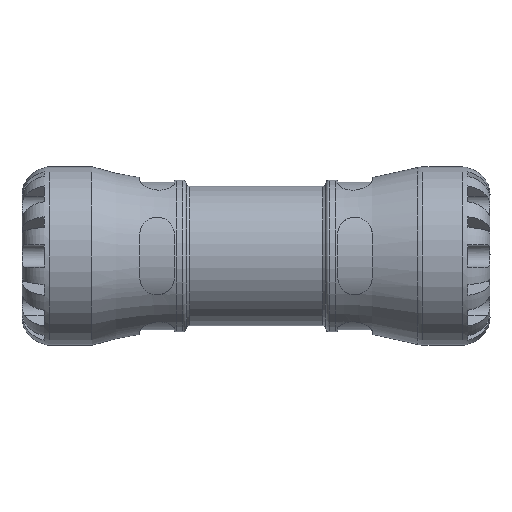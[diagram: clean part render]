
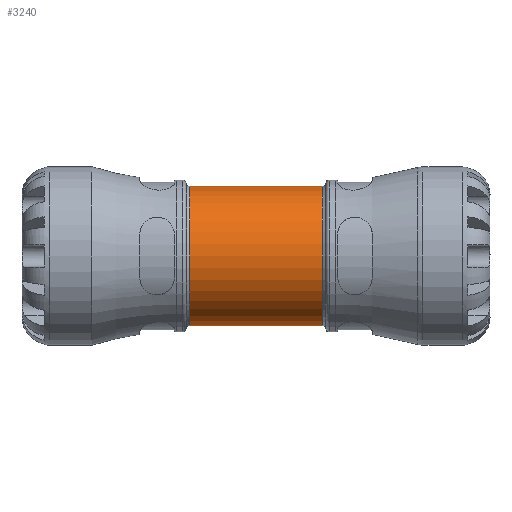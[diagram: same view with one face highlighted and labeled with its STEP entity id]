
A CAD part, front view. The second image highlights one B-rep face of the part: STEP entity #3240.
In plain terms, the highlighted cylindrical face has radius 22.62 mm (diameter 45.24 mm), a full revolution.
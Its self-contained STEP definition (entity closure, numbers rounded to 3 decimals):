
#467=FACE_BOUND('',#784,.T.);
#468=FACE_BOUND('',#785,.T.);
#510=CYLINDRICAL_SURFACE('',#3445,22.62);
#580=FACE_OUTER_BOUND('',#783,.T.);
#783=EDGE_LOOP('',(#2108));
#784=EDGE_LOOP('',(#2109));
#785=EDGE_LOOP('',(#2110));
#1026=B_SPLINE_CURVE_WITH_KNOTS('',3,(#4844,#4845,#4846,#4847,#4848,#4849,
#4850,#4851,#4852,#4853,#4854,#4855,#4856,#4857,#4858,#4859,#4860,#4861),
 .UNSPECIFIED.,.T.,.F.,(4,1,1,1,1,1,1,1,1,1,1,1,1,1,1,4),(-7.44,
-6.909,-6.377,-5.846,-5.314,
-4.783,-4.252,-3.897,-3.543,-3.189,
-2.48,-2.126,-1.594,-1.063,
-0.531,0.),.UNSPECIFIED.);
#1158=CIRCLE('',#3446,22.62);
#1159=CIRCLE('',#3447,22.62);
#1331=VERTEX_POINT('',#4823);
#1334=VERTEX_POINT('',#4866);
#1335=VERTEX_POINT('',#4868);
#1638=EDGE_CURVE('',#1331,#1331,#1026,.T.);
#1640=EDGE_CURVE('',#1334,#1334,#1158,.T.);
#1641=EDGE_CURVE('',#1335,#1335,#1159,.T.);
#2108=ORIENTED_EDGE('',*,*,#1640,.F.);
#2109=ORIENTED_EDGE('',*,*,#1641,.F.);
#2110=ORIENTED_EDGE('',*,*,#1638,.F.);
#3240=ADVANCED_FACE('',(#580,#467,#468),#510,.T.);
#3445=AXIS2_PLACEMENT_3D('',#4865,#3826,#3827);
#3446=AXIS2_PLACEMENT_3D('',#4867,#3828,#3829);
#3447=AXIS2_PLACEMENT_3D('',#4869,#3830,#3831);
#3826=DIRECTION('center_axis',(1.,0.,0.));
#3827=DIRECTION('ref_axis',(0.,1.,0.));
#3828=DIRECTION('center_axis',(1.,0.,0.));
#3829=DIRECTION('ref_axis',(0.,1.,0.));
#3830=DIRECTION('center_axis',(-1.,0.,0.));
#3831=DIRECTION('ref_axis',(0.,1.,0.));
#4823=CARTESIAN_POINT('',(0.,18.458,-13.076));
#4844=CARTESIAN_POINT('Ctrl Pts',(0.,18.456,
-13.075));
#4845=CARTESIAN_POINT('Ctrl Pts',(-2.207,18.456,-13.075));
#4846=CARTESIAN_POINT('Ctrl Pts',(-6.62,19.18,-12.113));
#4847=CARTESIAN_POINT('Ctrl Pts',(-11.601,21.164,-8.479));
#4848=CARTESIAN_POINT('Ctrl Pts',(-14.585,22.676,-3.121));
#4849=CARTESIAN_POINT('Ctrl Pts',(-14.58,22.68,3.121));
#4850=CARTESIAN_POINT('Ctrl Pts',(-11.613,21.161,8.478));
#4851=CARTESIAN_POINT('Ctrl Pts',(-7.154,19.407,11.707));
#4852=CARTESIAN_POINT('Ctrl Pts',(-2.26,18.428,13.123));
#4853=CARTESIAN_POINT('Ctrl Pts',(2.261,18.424,13.122));
#4854=CARTESIAN_POINT('Ctrl Pts',(7.848,19.553,11.508));
#4855=CARTESIAN_POINT('Ctrl Pts',(12.098,21.417,7.944));
#4856=CARTESIAN_POINT('Ctrl Pts',(14.583,22.677,2.422));
#4857=CARTESIAN_POINT('Ctrl Pts',(14.584,22.677,-3.118));
#4858=CARTESIAN_POINT('Ctrl Pts',(11.602,21.163,-8.481));
#4859=CARTESIAN_POINT('Ctrl Pts',(6.62,19.181,-12.112));
#4860=CARTESIAN_POINT('Ctrl Pts',(2.207,18.456,-13.075));
#4861=CARTESIAN_POINT('Ctrl Pts',(0.,18.456,
-13.075));
#4865=CARTESIAN_POINT('Origin',(11.31,0.,0.));
#4866=CARTESIAN_POINT('',(21.478,-22.62,0.));
#4867=CARTESIAN_POINT('Origin',(21.478,0.,0.));
#4868=CARTESIAN_POINT('',(-21.478,-22.62,0.));
#4869=CARTESIAN_POINT('Origin',(-21.478,0.,0.));
